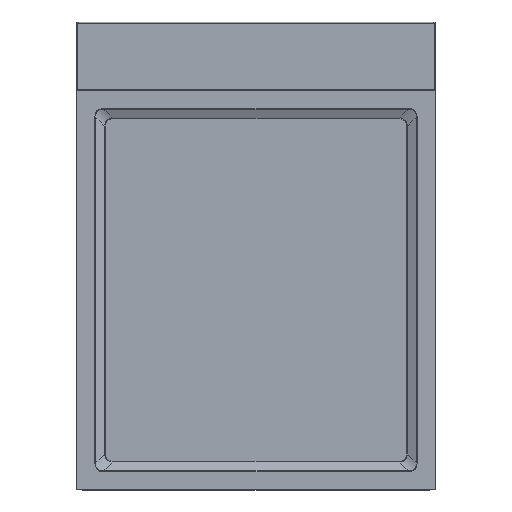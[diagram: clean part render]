
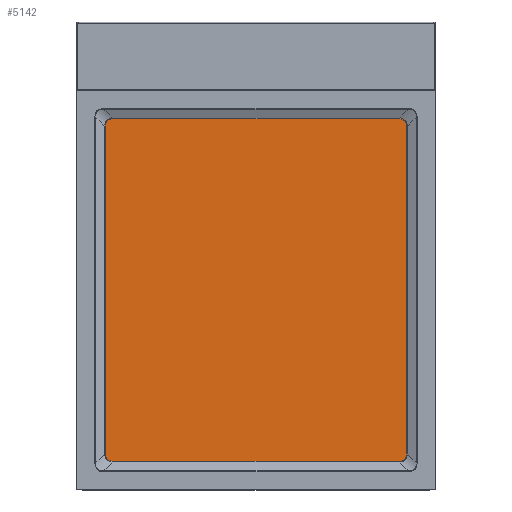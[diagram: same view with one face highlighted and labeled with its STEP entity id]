
A CAD part, top view. The second image highlights one B-rep face of the part: STEP entity #5142.
In plain terms, the highlighted planar face has unit normal (0, 0, 1).
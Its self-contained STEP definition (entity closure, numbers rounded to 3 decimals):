
#5130=AXIS2_PLACEMENT_3D('Plane Axis2P3D',#5127,#5128,#5129) ;
#4618=CARTESIAN_POINT('Control Point',(-161.24,138.88,-1.)) ;
#4619=CARTESIAN_POINT('Control Point',(-161.24,139.428,-1.)) ;
#4620=CARTESIAN_POINT('Control Point',(-161.214,139.975,-1.)) ;
#4621=CARTESIAN_POINT('Control Point',(-161.157,140.519,-1.)) ;
#4622=CARTESIAN_POINT('Control Point',(-160.951,141.723,-1.)) ;
#4623=CARTESIAN_POINT('Control Point',(-160.543,142.867,-1.)) ;
#4624=CARTESIAN_POINT('Control Point',(-160.245,143.472,-1.)) ;
#4625=CARTESIAN_POINT('Control Point',(-159.592,144.435,-1.)) ;
#4626=CARTESIAN_POINT('Control Point',(-158.731,145.206,-1.)) ;
#4627=CARTESIAN_POINT('Control Point',(-158.335,145.492,-1.)) ;
#4628=CARTESIAN_POINT('Control Point',(-157.361,146.058,-1.)) ;
#4629=CARTESIAN_POINT('Control Point',(-156.285,146.418,-1.)) ;
#4630=CARTESIAN_POINT('Control Point',(-155.655,146.562,-1.)) ;
#4631=CARTESIAN_POINT('Control Point',(-154.821,146.683,-1.)) ;
#4632=CARTESIAN_POINT('Control Point',(-153.977,146.73,-1.)) ;
#4633=CARTESIAN_POINT('Control Point',(-153.778,146.737,-1.)) ;
#4634=CARTESIAN_POINT('Control Point',(-153.579,146.74,-1.)) ;
#4635=CARTESIAN_POINT('Control Point',(-153.38,146.74,-1.)) ;
#4636=CARTESIAN_POINT('Vertex',(-161.24,138.88,-1.)) ;
#4638=CARTESIAN_POINT('Vertex',(-153.38,146.74,-1.)) ;
#4665=CARTESIAN_POINT('Line Origine',(0.,146.74,-1.)) ;
#4669=CARTESIAN_POINT('Vertex',(153.38,146.74,-1.)) ;
#4776=CARTESIAN_POINT('Control Point',(153.38,146.74,-1.)) ;
#4777=CARTESIAN_POINT('Control Point',(153.928,146.74,-1.)) ;
#4778=CARTESIAN_POINT('Control Point',(154.475,146.714,-1.)) ;
#4779=CARTESIAN_POINT('Control Point',(155.019,146.657,-1.)) ;
#4780=CARTESIAN_POINT('Control Point',(156.223,146.451,-1.)) ;
#4781=CARTESIAN_POINT('Control Point',(157.367,146.043,-1.)) ;
#4782=CARTESIAN_POINT('Control Point',(157.972,145.745,-1.)) ;
#4783=CARTESIAN_POINT('Control Point',(158.935,145.092,-1.)) ;
#4784=CARTESIAN_POINT('Control Point',(159.706,144.231,-1.)) ;
#4785=CARTESIAN_POINT('Control Point',(159.992,143.835,-1.)) ;
#4786=CARTESIAN_POINT('Control Point',(160.558,142.861,-1.)) ;
#4787=CARTESIAN_POINT('Control Point',(160.918,141.785,-1.)) ;
#4788=CARTESIAN_POINT('Control Point',(161.062,141.155,-1.)) ;
#4789=CARTESIAN_POINT('Control Point',(161.183,140.321,-1.)) ;
#4790=CARTESIAN_POINT('Control Point',(161.23,139.477,-1.)) ;
#4791=CARTESIAN_POINT('Control Point',(161.237,139.278,-1.)) ;
#4792=CARTESIAN_POINT('Control Point',(161.24,139.079,-1.)) ;
#4793=CARTESIAN_POINT('Control Point',(161.24,138.88,-1.)) ;
#4794=CARTESIAN_POINT('Vertex',(161.24,138.88,-1.)) ;
#4815=CARTESIAN_POINT('Line Origine',(161.24,-36.5,-1.)) ;
#4819=CARTESIAN_POINT('Vertex',(161.24,-211.88,-1.)) ;
#4926=CARTESIAN_POINT('Control Point',(161.24,-211.88,-1.)) ;
#4927=CARTESIAN_POINT('Control Point',(161.24,-212.428,-1.)) ;
#4928=CARTESIAN_POINT('Control Point',(161.214,-212.975,-1.)) ;
#4929=CARTESIAN_POINT('Control Point',(161.157,-213.519,-1.)) ;
#4930=CARTESIAN_POINT('Control Point',(160.951,-214.723,-1.)) ;
#4931=CARTESIAN_POINT('Control Point',(160.543,-215.867,-1.)) ;
#4932=CARTESIAN_POINT('Control Point',(160.245,-216.472,-1.)) ;
#4933=CARTESIAN_POINT('Control Point',(159.592,-217.435,-1.)) ;
#4934=CARTESIAN_POINT('Control Point',(158.731,-218.206,-1.)) ;
#4935=CARTESIAN_POINT('Control Point',(158.335,-218.492,-1.)) ;
#4936=CARTESIAN_POINT('Control Point',(157.361,-219.058,-1.)) ;
#4937=CARTESIAN_POINT('Control Point',(156.285,-219.418,-1.)) ;
#4938=CARTESIAN_POINT('Control Point',(155.655,-219.562,-1.)) ;
#4939=CARTESIAN_POINT('Control Point',(154.821,-219.683,-1.)) ;
#4940=CARTESIAN_POINT('Control Point',(153.977,-219.73,-1.)) ;
#4941=CARTESIAN_POINT('Control Point',(153.778,-219.737,-1.)) ;
#4942=CARTESIAN_POINT('Control Point',(153.579,-219.74,-1.)) ;
#4943=CARTESIAN_POINT('Control Point',(153.38,-219.74,-1.)) ;
#4944=CARTESIAN_POINT('Vertex',(153.38,-219.74,-1.)) ;
#4965=CARTESIAN_POINT('Line Origine',(0.,-219.74,-1.)) ;
#4969=CARTESIAN_POINT('Vertex',(-153.38,-219.74,-1.)) ;
#5076=CARTESIAN_POINT('Control Point',(-153.38,-219.74,-1.)) ;
#5077=CARTESIAN_POINT('Control Point',(-153.928,-219.74,-1.)) ;
#5078=CARTESIAN_POINT('Control Point',(-154.475,-219.714,-1.)) ;
#5079=CARTESIAN_POINT('Control Point',(-155.019,-219.657,-1.)) ;
#5080=CARTESIAN_POINT('Control Point',(-156.223,-219.451,-1.)) ;
#5081=CARTESIAN_POINT('Control Point',(-157.367,-219.043,-1.)) ;
#5082=CARTESIAN_POINT('Control Point',(-157.972,-218.745,-1.)) ;
#5083=CARTESIAN_POINT('Control Point',(-158.935,-218.092,-1.)) ;
#5084=CARTESIAN_POINT('Control Point',(-159.706,-217.231,-1.)) ;
#5085=CARTESIAN_POINT('Control Point',(-159.992,-216.835,-1.)) ;
#5086=CARTESIAN_POINT('Control Point',(-160.558,-215.861,-1.)) ;
#5087=CARTESIAN_POINT('Control Point',(-160.918,-214.785,-1.)) ;
#5088=CARTESIAN_POINT('Control Point',(-161.062,-214.155,-1.)) ;
#5089=CARTESIAN_POINT('Control Point',(-161.183,-213.321,-1.)) ;
#5090=CARTESIAN_POINT('Control Point',(-161.23,-212.477,-1.)) ;
#5091=CARTESIAN_POINT('Control Point',(-161.237,-212.278,-1.)) ;
#5092=CARTESIAN_POINT('Control Point',(-161.24,-212.079,-1.)) ;
#5093=CARTESIAN_POINT('Control Point',(-161.24,-211.88,-1.)) ;
#5094=CARTESIAN_POINT('Vertex',(-161.24,-211.88,-1.)) ;
#5115=CARTESIAN_POINT('Line Origine',(-161.24,-36.5,-1.)) ;
#5127=CARTESIAN_POINT('Axis2P3D Location',(0.,0.,-1.)) ;
#4666=DIRECTION('Vector Direction',(1.,0.,0.)) ;
#4816=DIRECTION('Vector Direction',(0.,1.,0.)) ;
#4966=DIRECTION('Vector Direction',(-1.,0.,0.)) ;
#5116=DIRECTION('Vector Direction',(0.,-1.,0.)) ;
#5128=DIRECTION('Axis2P3D Direction',(0.,0.,1.)) ;
#5129=DIRECTION('Axis2P3D XDirection',(1.,0.,0.)) ;
#4667=VECTOR('Line Direction',#4666,1.) ;
#4817=VECTOR('Line Direction',#4816,1.) ;
#4967=VECTOR('Line Direction',#4966,1.) ;
#5117=VECTOR('Line Direction',#5116,1.) ;
#5133=ORIENTED_EDGE('',*,*,#4946,.F.) ;
#5134=ORIENTED_EDGE('',*,*,#4821,.F.) ;
#5135=ORIENTED_EDGE('',*,*,#4796,.F.) ;
#5136=ORIENTED_EDGE('',*,*,#4671,.F.) ;
#5137=ORIENTED_EDGE('',*,*,#4640,.F.) ;
#5138=ORIENTED_EDGE('',*,*,#5119,.F.) ;
#5139=ORIENTED_EDGE('',*,*,#5096,.F.) ;
#5140=ORIENTED_EDGE('',*,*,#4971,.F.) ;
#5142=ADVANCED_FACE('Grillplatte',(#5141),#5131,.T.) ;
#4617=B_SPLINE_CURVE_WITH_KNOTS('',5,(#4618,#4619,#4620,#4621,#4622,#4623,#4624,#4625,#4626,#4627,#4628,#4629,#4630,#4631,#4632,#4633,#4634,#4635),.UNSPECIFIED.,.F.,.U.,(6,3,3,3,3,6),(167.03,171.023,175.989,179.622,184.346,185.801),.UNSPECIFIED.) ;
#4775=B_SPLINE_CURVE_WITH_KNOTS('',5,(#4776,#4777,#4778,#4779,#4780,#4781,#4782,#4783,#4784,#4785,#4786,#4787,#4788,#4789,#4790,#4791,#4792,#4793),.UNSPECIFIED.,.F.,.U.,(6,3,3,3,3,6),(167.03,171.023,175.989,179.622,184.346,185.801),.UNSPECIFIED.) ;
#4925=B_SPLINE_CURVE_WITH_KNOTS('',5,(#4926,#4927,#4928,#4929,#4930,#4931,#4932,#4933,#4934,#4935,#4936,#4937,#4938,#4939,#4940,#4941,#4942,#4943),.UNSPECIFIED.,.F.,.U.,(6,3,3,3,3,6),(167.03,171.023,175.989,179.622,184.346,185.801),.UNSPECIFIED.) ;
#5075=B_SPLINE_CURVE_WITH_KNOTS('',5,(#5076,#5077,#5078,#5079,#5080,#5081,#5082,#5083,#5084,#5085,#5086,#5087,#5088,#5089,#5090,#5091,#5092,#5093),.UNSPECIFIED.,.F.,.U.,(6,3,3,3,3,6),(167.03,171.023,175.989,179.622,184.346,185.801),.UNSPECIFIED.) ;
#4640=EDGE_CURVE('',#4637,#4639,#4617,.T.) ;
#4671=EDGE_CURVE('',#4639,#4670,#4668,.T.) ;
#4796=EDGE_CURVE('',#4670,#4795,#4775,.T.) ;
#4821=EDGE_CURVE('',#4795,#4820,#4818,.F.) ;
#4946=EDGE_CURVE('',#4820,#4945,#4925,.T.) ;
#4971=EDGE_CURVE('',#4945,#4970,#4968,.T.) ;
#5096=EDGE_CURVE('',#4970,#5095,#5075,.T.) ;
#5119=EDGE_CURVE('',#5095,#4637,#5118,.F.) ;
#5132=EDGE_LOOP('',(#5133,#5134,#5135,#5136,#5137,#5138,#5139,#5140)) ;
#5141=FACE_OUTER_BOUND('',#5132,.T.) ;
#4668=LINE('Line',#4665,#4667) ;
#4818=LINE('Line',#4815,#4817) ;
#4968=LINE('Line',#4965,#4967) ;
#5118=LINE('Line',#5115,#5117) ;
#5131=PLANE('',#5130) ;
#4637=VERTEX_POINT('',#4636) ;
#4639=VERTEX_POINT('',#4638) ;
#4670=VERTEX_POINT('',#4669) ;
#4795=VERTEX_POINT('',#4794) ;
#4820=VERTEX_POINT('',#4819) ;
#4945=VERTEX_POINT('',#4944) ;
#4970=VERTEX_POINT('',#4969) ;
#5095=VERTEX_POINT('',#5094) ;
